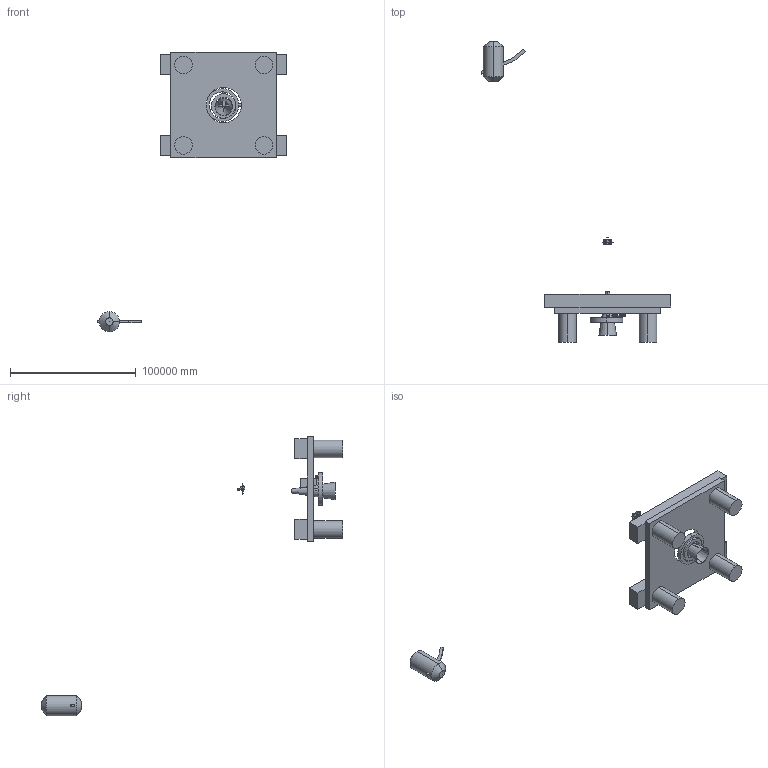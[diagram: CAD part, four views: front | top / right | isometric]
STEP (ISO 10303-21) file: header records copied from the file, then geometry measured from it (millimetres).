
FILE_DESCRIPTION (( 'STEP AP203' ), '1' );
FILE_NAME ('00_Space_Elevator_Master_Showcase.STEP', '2026-10-29T18:15:29', ( 'user' ), ( '' ), 'SwSTEP 2.0', 'SolidWorks 2026', '' );
FILE_SCHEMA (( 'CONFIG_CONTROL_DESIGN' ));
Length unit declared in the file: inch
Products named in the file (16): CL_05_Laser_PV_Receiver_Dish; TE_01_Graphene_Tether_Segment_10m; 02_Tether_Climber_20T; EP_03_Inner_Gimbal_And_Capstan_Hub; 03_Tether_And_Apex_Hub; AP_02_Peet_Interplanetary_Sling_Ramp; AP_01_Apex_Counterweight_Core; 00_Space_Elevator_Master_Showcase; EP_02_Outer_Gimbal_Ring; CL_01_Hex_Composite_Chassis; CL_04_Thermal_Radiator_Wing; EP_01_SemiSubmersible_Hull; CL_02_Pinch_Drive_Roller; CL_03_Hydraulic_Clamping_Actuator_Yoke; EP_04_Lightning_And_Wind_Arrestor_Tower; 01_Earth_Port_Platform
Assembly tree (25 placements, depth 3):
  TE_01_Graphene_Tether_Segment_10m
  00_Space_Elevator_Master_Showcase
    01_Earth_Port_Platform
      EP_01_SemiSubmersible_Hull
      EP_02_Outer_Gimbal_Ring
      EP_03_Inner_Gimbal_And_Capstan_Hub
      EP_04_Lightning_And_Wind_Arrestor_Tower
    02_Tether_Climber_20T
      CL_01_Hex_Composite_Chassis
      CL_02_Pinch_Drive_Roller  x6
      CL_03_Hydraulic_Clamping_Actuator_Yoke  x6
      CL_04_Thermal_Radiator_Wing  x2
      CL_05_Laser_PV_Receiver_Dish
    03_Tether_And_Apex_Hub
      AP_01_Apex_Counterweight_Core
      AP_02_Peet_Interplanetary_Sling_Ramp
Bounding box: 150367.32 x 239385.21 x 222199.49 mm (x, y, z)
Volume: 85937449976523.6 mm3; surface area: 31425789874.7 mm2
Topology: 26 solids, 26 shells, 358 faces, 792 edges, 524 vertices
Faces by surface type: plane 289, cylinder 57, cone 12
Entity records: 8489 total; most frequent: CARTESIAN_POINT 1208, DIRECTION 1132, ORIENTED_EDGE 1032, EDGE_CURVE 516, LINE 400, VECTOR 400, AXIS2_PLACEMENT_3D 366, VERTEX_POINT 340
